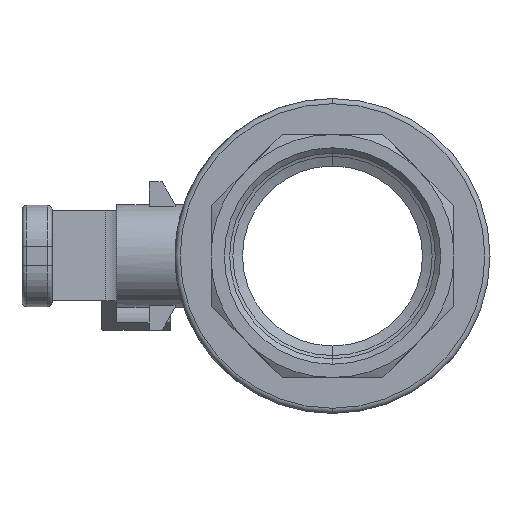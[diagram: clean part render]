
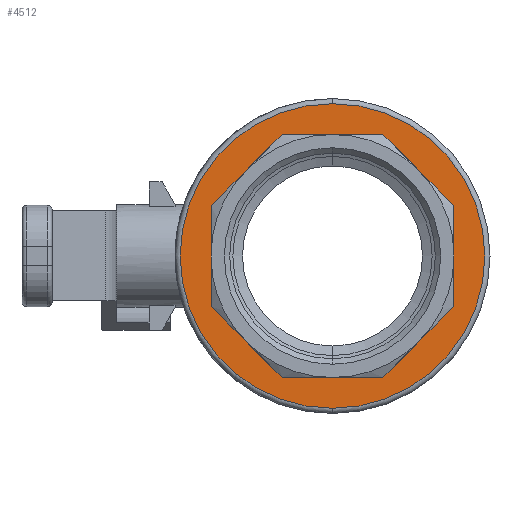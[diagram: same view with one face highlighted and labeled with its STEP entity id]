
A CAD part, left-side view. The second image highlights one B-rep face of the part: STEP entity #4512.
In plain terms, the highlighted planar face has unit normal (-1, 0, 0).
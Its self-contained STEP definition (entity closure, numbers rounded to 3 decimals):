
#2 = EDGE_CURVE ( 'NONE', #3526, #3525, #772, .T. ) ;
#92 = EDGE_CURVE ( 'NONE', #3497, #3487, #899, .T. ) ;
#96 = EDGE_CURVE ( 'NONE', #3498, #3497, #921, .T. ) ;
#100 = EDGE_CURVE ( 'NONE', #3486, #3498, #941, .T. ) ;
#104 = EDGE_CURVE ( 'NONE', #4544, #3486, #963, .T. ) ;
#168 = CIRCLE ( 'NONE', #171, 33.85 ) ;
#171 = AXIS2_PLACEMENT_3D ( 'NONE', #8472, #8473, #8474 ) ;
#335 = ORIENTED_EDGE ( 'NONE', *, *, #2, .T. ) ;
#336 = ORIENTED_EDGE ( 'NONE', *, *, #8622, .T. ) ;
#337 = ORIENTED_EDGE ( 'NONE', *, *, #7700, .T. ) ;
#338 = ORIENTED_EDGE ( 'NONE', *, *, #7697, .T. ) ;
#339 = ORIENTED_EDGE ( 'NONE', *, *, #7693, .T. ) ;
#340 = ORIENTED_EDGE ( 'NONE', *, *, #7689, .T. ) ;
#341 = ORIENTED_EDGE ( 'NONE', *, *, #104, .T. ) ;
#342 = ORIENTED_EDGE ( 'NONE', *, *, #100, .T. ) ;
#343 = ORIENTED_EDGE ( 'NONE', *, *, #96, .T. ) ;
#344 = ORIENTED_EDGE ( 'NONE', *, *, #92, .T. ) ;
#772 = CIRCLE ( 'NONE', #1556, 33.85 ) ;
#899 = LINE ( 'NONE', #901, #4385 ) ;
#901 = CARTESIAN_POINT ( 'NONE',  ( -29., -27., -11.184 ) ) ;
#902 = DIRECTION ( 'NONE',  ( 0., 0.707, -0.707 ) ) ;
#921 = LINE ( 'NONE', #922, #4391 ) ;
#922 = CARTESIAN_POINT ( 'NONE',  ( -29., -27., 11.184 ) ) ;
#923 = DIRECTION ( 'NONE',  ( 0., 0., -1. ) ) ;
#941 = LINE ( 'NONE', #942, #4393 ) ;
#942 = CARTESIAN_POINT ( 'NONE',  ( -29., -11.184, 27. ) ) ;
#943 = DIRECTION ( 'NONE',  ( 0., -0.707, -0.707 ) ) ;
#963 = LINE ( 'NONE', #964, #4395 ) ;
#964 = CARTESIAN_POINT ( 'NONE',  ( -29., 11.184, 27. ) ) ;
#965 = DIRECTION ( 'NONE',  ( 0., -1., 0. ) ) ;
#1404 = VECTOR ( 'NONE', #6846, 1000. ) ;
#1405 = VECTOR ( 'NONE', #6696, 1000. ) ;
#1556 = AXIS2_PLACEMENT_3D ( 'NONE', #5951, #5952, #5953 ) ;
#1661 = VECTOR ( 'NONE', #6675, 1000. ) ;
#1664 = VECTOR ( 'NONE', #6653, 1000. ) ;
#1691 = AXIS2_PLACEMENT_3D ( 'NONE', #4132, #4143, #4144 ) ;
#2249 = CARTESIAN_POINT ( 'NONE',  ( -29., -11.184, 27. ) ) ;
#2254 = CARTESIAN_POINT ( 'NONE',  ( -29., -11.184, -27. ) ) ;
#2263 = CARTESIAN_POINT ( 'NONE',  ( -29., -27., -11.184 ) ) ;
#2264 = CARTESIAN_POINT ( 'NONE',  ( -29., -27., 11.184 ) ) ;
#2291 = CARTESIAN_POINT ( 'NONE',  ( -29., 0., -33.85 ) ) ;
#2292 = CARTESIAN_POINT ( 'NONE',  ( -29., 0., 33.85 ) ) ;
#2940 = VERTEX_POINT ( 'NONE', #4828 ) ;
#3486 = VERTEX_POINT ( 'NONE', #2249 ) ;
#3487 = VERTEX_POINT ( 'NONE', #2254 ) ;
#3497 = VERTEX_POINT ( 'NONE', #2263 ) ;
#3498 = VERTEX_POINT ( 'NONE', #2264 ) ;
#3525 = VERTEX_POINT ( 'NONE', #2291 ) ;
#3526 = VERTEX_POINT ( 'NONE', #2292 ) ;
#3966 = EDGE_LOOP ( 'NONE', ( #335, #336 ) ) ;
#3969 = EDGE_LOOP ( 'NONE', ( #337, #338, #339, #340, #341, #342, #343, #344 ) ) ;
#4132 = CARTESIAN_POINT ( 'NONE',  ( -29., 0., 0. ) ) ;
#4137 = FACE_OUTER_BOUND ( 'NONE', #3966, .T. ) ;
#4140 = FACE_BOUND ( 'NONE', #3969, .T. ) ;
#4141 = PLANE ( 'NONE',  #1691 ) ;
#4143 = DIRECTION ( 'NONE',  ( 1., 0., 0. ) ) ;
#4144 = DIRECTION ( 'NONE',  ( 0., 0., -1. ) ) ;
#4283 = CARTESIAN_POINT ( 'NONE',  ( -29., 11.184, 27. ) ) ;
#4385 = VECTOR ( 'NONE', #902, 1000. ) ;
#4391 = VECTOR ( 'NONE', #923, 1000. ) ;
#4393 = VECTOR ( 'NONE', #943, 1000. ) ;
#4395 = VECTOR ( 'NONE', #965, 1000. ) ;
#4512 = ADVANCED_FACE ( 'NONE', ( #4137, #4140 ), #4141, .F. ) ;
#4544 = VERTEX_POINT ( 'NONE', #4283 ) ;
#4828 = CARTESIAN_POINT ( 'NONE',  ( -29., 27., 11.184 ) ) ;
#5951 = CARTESIAN_POINT ( 'NONE',  ( -29., 0., 0. ) ) ;
#5952 = DIRECTION ( 'NONE',  ( -1., 0., 0. ) ) ;
#5953 = DIRECTION ( 'NONE',  ( 0., 0., 1. ) ) ;
#6651 = LINE ( 'NONE', #6652, #1664 ) ;
#6652 = CARTESIAN_POINT ( 'NONE',  ( -29., 27., 11.184 ) ) ;
#6653 = DIRECTION ( 'NONE',  ( 0., -0.707, 0.707 ) ) ;
#6673 = LINE ( 'NONE', #6674, #1661 ) ;
#6674 = CARTESIAN_POINT ( 'NONE',  ( -29., 27., -11.184 ) ) ;
#6675 = DIRECTION ( 'NONE',  ( 0., 0., 1. ) ) ;
#6694 = LINE ( 'NONE', #6695, #1405 ) ;
#6695 = CARTESIAN_POINT ( 'NONE',  ( -29., 11.184, -27. ) ) ;
#6696 = DIRECTION ( 'NONE',  ( 0., 0.707, 0.707 ) ) ;
#6844 = LINE ( 'NONE', #6845, #1404 ) ;
#6845 = CARTESIAN_POINT ( 'NONE',  ( -29., -11.184, -27. ) ) ;
#6846 = DIRECTION ( 'NONE',  ( 0., 1., 0. ) ) ;
#7319 = CARTESIAN_POINT ( 'NONE',  ( -29., 27., -11.184 ) ) ;
#7320 = CARTESIAN_POINT ( 'NONE',  ( -29., 11.184, -27. ) ) ;
#7689 = EDGE_CURVE ( 'NONE', #2940, #4544, #6651, .T. ) ;
#7693 = EDGE_CURVE ( 'NONE', #8478, #2940, #6673, .T. ) ;
#7697 = EDGE_CURVE ( 'NONE', #8479, #8478, #6694, .T. ) ;
#7700 = EDGE_CURVE ( 'NONE', #3487, #8479, #6844, .T. ) ;
#8472 = CARTESIAN_POINT ( 'NONE',  ( -29., 0., 0. ) ) ;
#8473 = DIRECTION ( 'NONE',  ( -1., 0., 0. ) ) ;
#8474 = DIRECTION ( 'NONE',  ( 0., 0., 1. ) ) ;
#8478 = VERTEX_POINT ( 'NONE', #7319 ) ;
#8479 = VERTEX_POINT ( 'NONE', #7320 ) ;
#8622 = EDGE_CURVE ( 'NONE', #3525, #3526, #168, .T. ) ;
